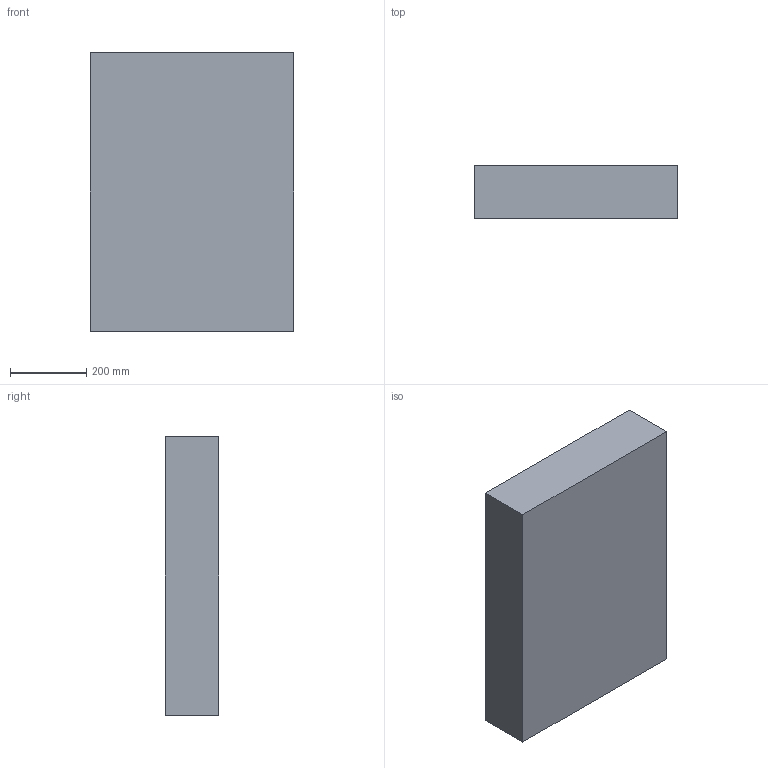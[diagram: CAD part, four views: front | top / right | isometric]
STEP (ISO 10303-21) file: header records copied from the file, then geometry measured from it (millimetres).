
FILE_DESCRIPTION((''),'2;1');
FILE_NAME('AIRFLOWBLANK_ORV3_3OU_SHORT','2021-12-07T23:13:26',('dmshapir'),('FACEBOOK, INC'),'CREO PARAMETRIC BY PTC INC, 2020454','CREO PARAMETRIC BY PTC INC, 2020454','');
FILE_SCHEMA(('AUTOMOTIVE_DESIGN { 1 0 10303 214 1 1 1 1 }'));
Length unit declared in the file: millimetre
Products named in the file (1): AIRFLOWBLANK_ORV3_3OU_SHORT
Bounding box: 534 x 139.15 x 730.6 mm (x, y, z)
Volume: 54288036.7 mm3; surface area: 1132219 mm2
Topology: 1 solids, 1 shells, 6 faces, 517 edges, 513 vertices
Faces by surface type: plane 6
Entity records: 5461 total; most frequent: CARTESIAN_POINT 922, PRESENTATION_STYLE_ASSIGNMENT 522, STYLED_ITEM 522, CURVE_STYLE 521, COMPOSITE_CURVE_SEGMENT 505, DIRECTION 435, VECTOR 392, LINE 392
